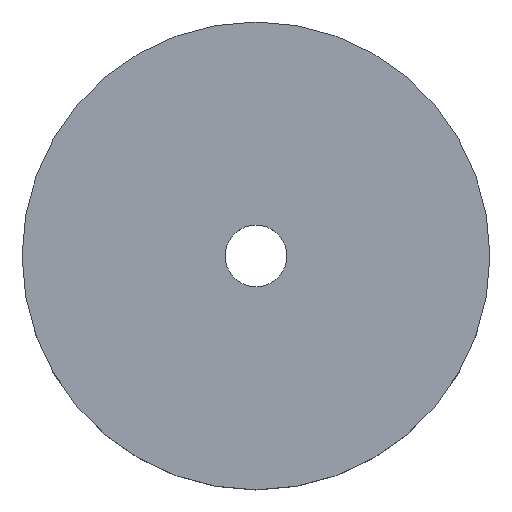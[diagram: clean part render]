
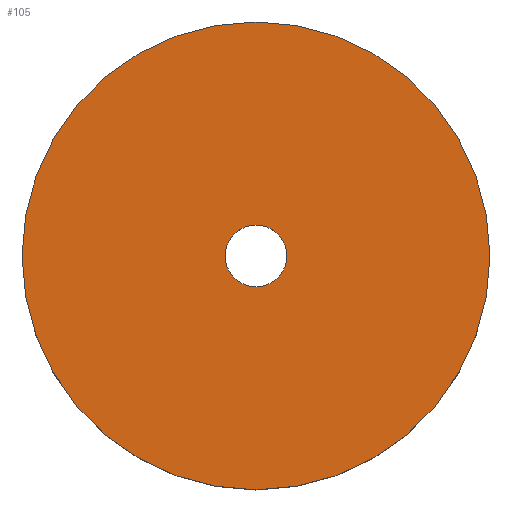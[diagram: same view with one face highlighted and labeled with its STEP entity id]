
A CAD part, top view. The second image highlights one B-rep face of the part: STEP entity #105.
In plain terms, the highlighted planar face has unit normal (0, 0, 1).
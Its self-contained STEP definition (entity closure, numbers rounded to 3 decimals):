
#21 = EDGE_CURVE('',#22,#22,#24,.T.);
#22 = VERTEX_POINT('',#23);
#23 = CARTESIAN_POINT('',(25.,0.,10.));
#24 = SURFACE_CURVE('',#25,(#30,#42),.PCURVE_S1.);
#25 = CIRCLE('',#26,25.);
#26 = AXIS2_PLACEMENT_3D('',#27,#28,#29);
#27 = CARTESIAN_POINT('',(0.,0.,10.));
#28 = DIRECTION('',(0.,0.,1.));
#29 = DIRECTION('',(1.,0.,-0.));
#30 = PCURVE('',#31,#36);
#31 = CYLINDRICAL_SURFACE('',#32,25.);
#32 = AXIS2_PLACEMENT_3D('',#33,#34,#35);
#33 = CARTESIAN_POINT('',(0.,0.,0.));
#34 = DIRECTION('',(0.,0.,1.));
#35 = DIRECTION('',(1.,0.,-0.));
#36 = DEFINITIONAL_REPRESENTATION('',(#37),#41);
#37 = LINE('',#38,#39);
#38 = CARTESIAN_POINT('',(0.,10.));
#39 = VECTOR('',#40,1.);
#40 = DIRECTION('',(1.,0.));
#41 = ( GEOMETRIC_REPRESENTATION_CONTEXT(2) 
PARAMETRIC_REPRESENTATION_CONTEXT() REPRESENTATION_CONTEXT('2D SPACE',''
  ) );
#42 = PCURVE('',#43,#48);
#43 = PLANE('',#44);
#44 = AXIS2_PLACEMENT_3D('',#45,#46,#47);
#45 = CARTESIAN_POINT('',(0.,0.,10.));
#46 = DIRECTION('',(0.,0.,1.));
#47 = DIRECTION('',(1.,0.,-0.));
#48 = DEFINITIONAL_REPRESENTATION('',(#49),#53);
#49 = CIRCLE('',#50,25.);
#50 = AXIS2_PLACEMENT_2D('',#51,#52);
#51 = CARTESIAN_POINT('',(0.,0.));
#52 = DIRECTION('',(1.,0.));
#53 = ( GEOMETRIC_REPRESENTATION_CONTEXT(2) 
PARAMETRIC_REPRESENTATION_CONTEXT() REPRESENTATION_CONTEXT('2D SPACE',''
  ) );
#105 = ADVANCED_FACE('',(#106,#109),#43,.T.);
#106 = FACE_BOUND('',#107,.T.);
#107 = EDGE_LOOP('',(#108));
#108 = ORIENTED_EDGE('',*,*,#21,.T.);
#109 = FACE_BOUND('',#110,.T.);
#110 = EDGE_LOOP('',(#111));
#111 = ORIENTED_EDGE('',*,*,#112,.F.);
#112 = EDGE_CURVE('',#113,#113,#115,.T.);
#113 = VERTEX_POINT('',#114);
#114 = CARTESIAN_POINT('',(3.3,0.,10.));
#115 = SURFACE_CURVE('',#116,(#121,#128),.PCURVE_S1.);
#116 = CIRCLE('',#117,3.3);
#117 = AXIS2_PLACEMENT_3D('',#118,#119,#120);
#118 = CARTESIAN_POINT('',(0.,0.,10.));
#119 = DIRECTION('',(0.,0.,1.));
#120 = DIRECTION('',(1.,0.,-0.));
#121 = PCURVE('',#43,#122);
#122 = DEFINITIONAL_REPRESENTATION('',(#123),#127);
#123 = CIRCLE('',#124,3.3);
#124 = AXIS2_PLACEMENT_2D('',#125,#126);
#125 = CARTESIAN_POINT('',(0.,0.));
#126 = DIRECTION('',(1.,0.));
#127 = ( GEOMETRIC_REPRESENTATION_CONTEXT(2) 
PARAMETRIC_REPRESENTATION_CONTEXT() REPRESENTATION_CONTEXT('2D SPACE',''
  ) );
#128 = PCURVE('',#129,#134);
#129 = CYLINDRICAL_SURFACE('',#130,3.3);
#130 = AXIS2_PLACEMENT_3D('',#131,#132,#133);
#131 = CARTESIAN_POINT('',(0.,0.,5.99));
#132 = DIRECTION('',(0.,0.,1.));
#133 = DIRECTION('',(1.,0.,-0.));
#134 = DEFINITIONAL_REPRESENTATION('',(#135),#139);
#135 = LINE('',#136,#137);
#136 = CARTESIAN_POINT('',(0.,4.01));
#137 = VECTOR('',#138,1.);
#138 = DIRECTION('',(1.,0.));
#139 = ( GEOMETRIC_REPRESENTATION_CONTEXT(2) 
PARAMETRIC_REPRESENTATION_CONTEXT() REPRESENTATION_CONTEXT('2D SPACE',''
  ) );
